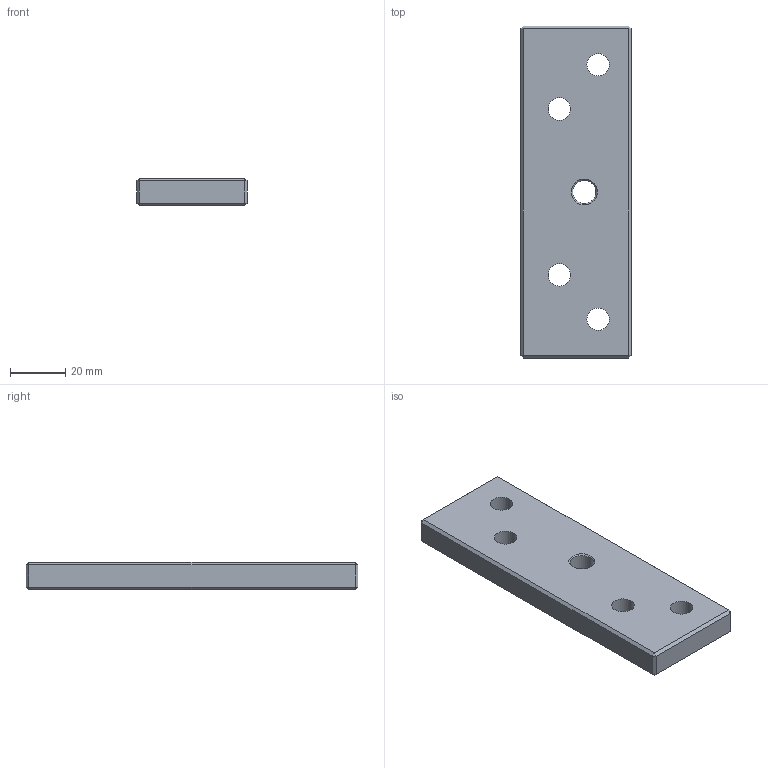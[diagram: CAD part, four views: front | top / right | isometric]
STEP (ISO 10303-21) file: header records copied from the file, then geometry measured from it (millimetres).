
FILE_DESCRIPTION(/* description */ (''),/* implementation_level */ '2;1');
FILE_NAME(/* name */ 'D:\IN 制图\设备\手动剥线机带侧刀4.02\工程图\上板.stp',/* time_stamp */ '2026-06-22T16:54:44+08:00',/* author */ ('ROG'),/* organization */ (''),/* preprocessor_version */ 'ST-DEVELOPER v19',/* originating_system */ 'Autodesk Inventor 2023',/* authorisation */ '');
FILE_SCHEMA (('AUTOMOTIVE_DESIGN { 1 0 10303 214 3 1 1 }'));
Length unit declared in the file: millimetre
Products named in the file (1): 上板
Bounding box: 40 x 120 x 10 mm (x, y, z)
Volume: 44581 mm3; surface area: 13236.2 mm2
Topology: 1 solids, 1 shells, 36 faces, 72 edges, 40 vertices
Faces by surface type: plane 28, cylinder 7, cone 1
Full cylindrical faces by diameter (mm): 8.1 x4, 8.376 x1, 13.6 x2
Entity records: 1007 total; most frequent: DIRECTION 162, CARTESIAN_POINT 149, ORIENTED_EDGE 144, EDGE_CURVE 72, LINE 56, VECTOR 56, AXIS2_PLACEMENT_3D 53, EDGE_LOOP 48
